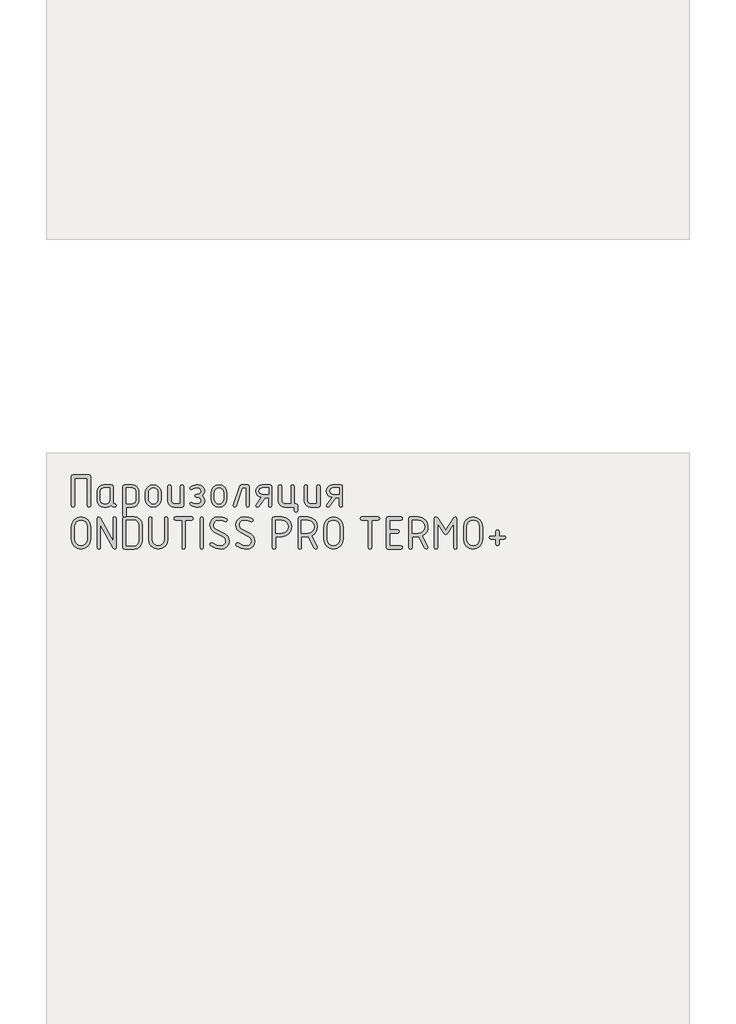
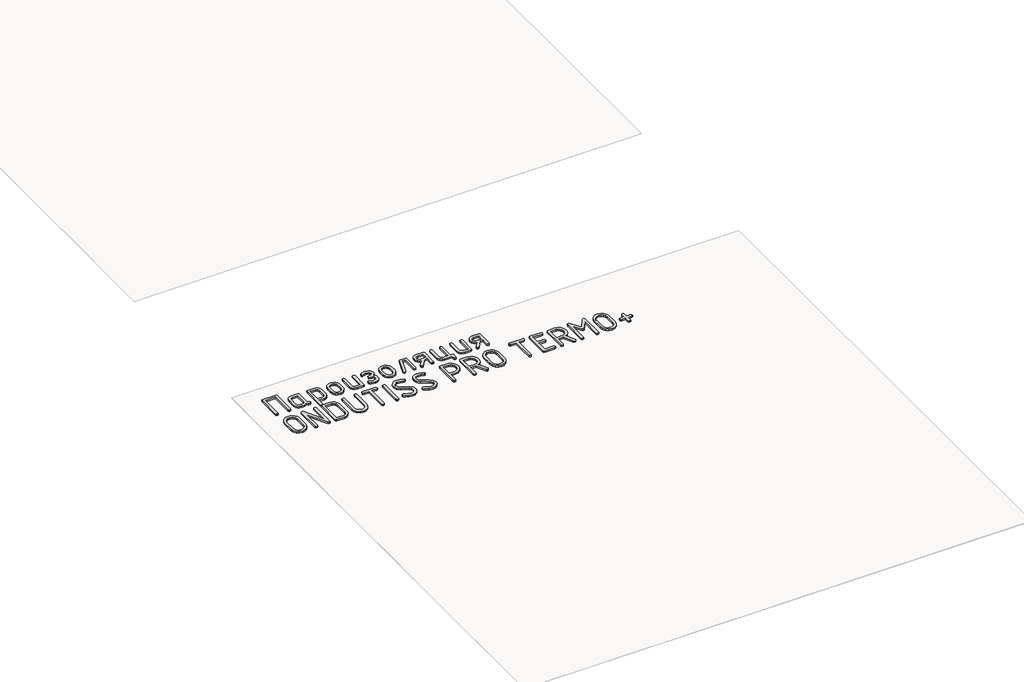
# One storey, part 15 of 42: 1 proxy.
"""IFC4 building model written with IfcOpenShell, lengths in millimetres."""

import ifcopenshell
import ifcopenshell.guid

model = None  # the IFC model being written
_history = None  # IfcOwnerHistory: only IFC2X3 demands one
_inside = {}  # id of a spatial element -> (the spatial element, [elements in it])
_under = {}  # id of a project, library or spatial element -> (it, [spatial elements below it])
_declared = {}  # id of a project -> (the project, [libraries it declares])
_typed = {}  # id of a type object -> (the type object, [elements of that type])
_made_of = {}  # id of a material, layer set ... -> (it, [elements and type objects made of it])


def new_model(schema):
    """Start an empty IFC model of exactly this schema.

    Asked for "IFC4X3", IfcOpenShell would pick the latest addendum, in which some entities
    have other attributes; the version numbers below select the first issue.
    IFC2X3 requires an IfcOwnerHistory on every rooted entity: one is made here for all.
    """
    global model, _history
    if schema == "IFC4X3":
        model = ifcopenshell.file(schema_version=(4, 3, 0, 0))
    else:
        model = ifcopenshell.file(schema=schema)
    _inside.clear()
    _under.clear()
    _declared.clear()
    _typed.clear()
    _made_of.clear()
    _history = None
    if model.schema == "IFC2X3":
        org = make("IfcOrganization", Name="unknown")
        user = make(
            "IfcPersonAndOrganization",
            ThePerson=make("IfcPerson", FamilyName="unknown"),
            TheOrganization=org,
        )
        app = make(
            "IfcApplication",
            ApplicationDeveloper=org,
            Version="unknown",
            ApplicationFullName="unknown",
            ApplicationIdentifier="unknown",
        )
        _history = make(
            "IfcOwnerHistory",
            OwningUser=user,
            OwningApplication=app,
            ChangeAction="ADDED",
            CreationDate=0,
        )
    return model


def make(cls, **values):
    """One entity of the class cls with the attributes given. An attribute that is None is left unset."""
    return model.create_entity(
        cls, **{name: value for name, value in values.items() if value is not None}
    )


def rooted(cls, **values):
    """An entity with a GlobalId (a new one), such as an element, a storey or a relation."""
    return make(cls, GlobalId=ifcopenshell.guid.new(), OwnerHistory=_history, **values)


def si_unit(unit_type, name, prefix=None):
    """IfcSIUnit, for example si_unit("LENGTHUNIT", "METRE", prefix="MILLI")."""
    return make("IfcSIUnit", UnitType=unit_type, Prefix=prefix, Name=name)


def assignment(units):
    """IfcUnitAssignment: the units of a project."""
    return None if units is None else make("IfcUnitAssignment", Units=units)


def point(xyz):
    """IfcCartesianPoint."""
    return None if xyz is None else make("IfcCartesianPoint", Coordinates=xyz)


def direction(xyz):
    """IfcDirection."""
    return None if xyz is None else make("IfcDirection", DirectionRatios=xyz)


def frame(location, z_axis=None, x_axis=None):
    """IfcAxis2Placement3D, a coordinate frame: its origin and axes. An axis left out is left unset."""
    return make(
        "IfcAxis2Placement3D",
        Location=point(location),
        Axis=direction(z_axis),
        RefDirection=direction(x_axis),
    )


def origin():
    """The frame at (0, 0, 0) with its axes left unset."""
    return frame((0.0, 0.0, 0.0))


def origin_with_axes():
    """The frame at (0, 0, 0) with the z axis (0, 0, 1) and the x axis (1, 0, 0) written out."""
    return frame((0.0, 0.0, 0.0), z_axis=(0.0, 0.0, 1.0), x_axis=(1.0, 0.0, 0.0))


def place(relative_to, where):
    """IfcLocalPlacement: puts the frame where relative to a parent placement (None: the world)."""
    return make(
        "IfcLocalPlacement", PlacementRelTo=relative_to, RelativePlacement=where
    )


def context(
    kind, dimensions, precision=None, world=None, true_north=None, identifier=None
):
    """IfcGeometricRepresentationContext, for example the 3D "Model" context."""
    return make(
        "IfcGeometricRepresentationContext",
        ContextIdentifier=identifier,
        ContextType=kind,
        CoordinateSpaceDimension=dimensions,
        Precision=precision,
        WorldCoordinateSystem=world,
        TrueNorth=true_north,
    )


def project(units=None, contexts=None):
    """IfcProject with its units and contexts."""
    return rooted(
        "IfcProject",
        Name="project",
        RepresentationContexts=contexts,
        UnitsInContext=assignment(units),
    )


def spatial(cls, under=None, at=None, **own):
    """A site, building, storey or space (cls), placed at a placement, below another one or the project."""
    s = rooted(cls, ObjectPlacement=at, **own)
    if under is not None:
        _under.setdefault(under.id(), (under, []))[1].append(s)
    return s


def polyline(points):
    """IfcPolyline through the points."""
    return make("IfcPolyline", Points=[point(p) for p in points])


def outline(outer, holes=None, kind="AREA"):
    """IfcArbitraryClosedProfileDef: a profile drawn as a closed curve; with holes, ...WithVoids."""
    if holes is None:
        return make("IfcArbitraryClosedProfileDef", ProfileType=kind, OuterCurve=outer)
    return make(
        "IfcArbitraryProfileDefWithVoids",
        ProfileType=kind,
        OuterCurve=outer,
        InnerCurves=holes,
    )


def extrude(swept, where, along, depth):
    """IfcExtrudedAreaSolid: the profile swept, set in the frame where, extruded along a direction by depth."""
    return make(
        "IfcExtrudedAreaSolid",
        SweptArea=swept,
        Position=where,
        ExtrudedDirection=direction(along),
        Depth=depth,
    )


def shape(context_of_items, identifier, shape_type, items):
    """IfcShapeRepresentation: the items that make up one representation, for example the "Body"."""
    return make(
        "IfcShapeRepresentation",
        ContextOfItems=context_of_items,
        RepresentationIdentifier=identifier,
        RepresentationType=shape_type,
        Items=items,
    )


def made_of(thing, what):
    """Note that an element or type object is made of a material, layer set ...; save() writes the relation."""
    if what is not None:
        _made_of.setdefault(what.id(), (what, []))[1].append(thing)
    return thing


def element(
    cls,
    number,
    at=None,
    inside=None,
    cuts=None,
    type_object=None,
    material=None,
    context=None,
    identifier="Body",
    shape_type=None,
    held_by="IfcProductDefinitionShape",
    body=None,
    shapes=None,
    **own,
):
    """One element of the class cls, such as IfcWall. Its Tag is "e" and its number.

    at: its placement. inside: the storey or other place that contains it. cuts: it is an
    opening in that element (IfcRelVoidsElement). A single representation is given by context,
    identifier, shape_type and body (its items); several are given by shapes. held_by: the class
    of the entity that holds the representations. save() writes the other relations.
    """
    e = rooted(cls, Tag="e%d" % number, ObjectPlacement=at, **own)
    if body is not None:
        shapes = [shape(context, identifier, shape_type, body)]
    if shapes is not None:
        e.Representation = make(held_by, Representations=shapes)
    if inside is not None:
        _inside.setdefault(inside.id(), (inside, []))[1].append(e)
    if cuts is not None:
        rooted(
            "IfcRelVoidsElement", RelatingBuildingElement=cuts, RelatedOpeningElement=e
        )
    if type_object is not None:
        _typed.setdefault(type_object.id(), (type_object, []))[1].append(e)
    return made_of(e, material)


def aggregate(whole, parts):
    """IfcRelAggregates: a whole, such as a stair, and the parts it consists of."""
    return rooted("IfcRelAggregates", RelatingObject=whole, RelatedObjects=parts)


def save(model, path):
    """Write the relations noted so far, then the file.

    IfcRelAggregates (storeys below a building ...), IfcRelContainedInSpatialStructure (elements
    in a storey), IfcRelDefinesByType, IfcRelAssociatesMaterial and IfcRelDeclares: one each for
    every whole, place, type object, material and project.
    """
    for whole, parts in _under.values():
        aggregate(whole, parts)
    for where, things in _inside.values():
        rooted(
            "IfcRelContainedInSpatialStructure",
            RelatedElements=things,
            RelatingStructure=where,
        )
    for kind, things in _typed.values():
        rooted("IfcRelDefinesByType", RelatedObjects=things, RelatingType=kind)
    for what, things in _made_of.values():
        rooted("IfcRelAssociatesMaterial", RelatedObjects=things, RelatingMaterial=what)
    for by, libraries in _declared.values():
        rooted("IfcRelDeclares", RelatingContext=by, RelatedDefinitions=libraries)
    model.write(path)


model = new_model("IFC4")

# Units and contexts
model_context = context("Model", 3, world=origin())
ifc_project = project(units=[si_unit("LENGTHUNIT", "METRE", prefix="MILLI")], contexts=[model_context])

# Site, building, storey
site = spatial("IfcSite", under=ifc_project)
building = spatial("IfcBuilding", under=site)
storey = spatial("IfcBuildingStorey", under=building, Name="Этаж 01", Elevation=0.0)

# Proxy
placement = place(None, origin())
element("IfcBuildingElementProxy", 1, Name="150 мм GOST Common", ObjectType="150 мм GOST Common", at=placement, inside=storey, context=model_context, shape_type="SweptSolid", body=[
    extrude(outline(polyline([(-10713.0545046, -34675.913887), (-10638.5048151, -34675.913887), (-10632.9016029, -34677.8016002), (-10631.0338655, -34683.4647398), (-10631.0338655, -34819.2202837), (-10632.9515424, -34824.8834233), (-10638.7045731, -34826.7711365), (-10644.4576038, -34824.8934112), (-10646.3752807, -34819.2602353), (-10646.3752807, -34691.2553022), (-10705.184039, -34691.2553022), (-10705.184039, -34819.2602353), (-10707.1017159, -34824.8934112), (-10712.8547466, -34826.7711365), (-10718.6077773, -34824.8834233), (-10720.5254542, -34819.2202837), (-10720.5254542, -34683.4647398), (-10718.6577168, -34677.8016002), (-10713.0545046, -34675.913887)])), origin_with_axes(), (0.0, 0.0, 1.0), 10.0),
    extrude(outline(polyline([(-10511.2190109, -34819.3001869), (-10513.0867483, -34824.9033991), (-10518.6899605, -34826.7711365), (-10528.1684781, -34824.7835443), (-10535.7492945, -34818.8207677), (-10544.8682477, -34824.7835443), (-10555.8449504, -34826.7711365), (-10570.7069464, -34826.7711365), (-10582.2030199, -34824.6037621), (-10591.7614407, -34818.1016388), (-10598.2036365, -34808.443339), (-10600.3510351, -34796.8074349), (-10600.3510351, -34751.9018342), (-10598.2036365, -34740.2659301), (-10591.7614407, -34730.6076303), (-10582.2030199, -34724.105507), (-10570.7069464, -34721.9381326), (-10533.6318596, -34721.9381326), (-10528.0586111, -34723.80587), (-10526.2008617, -34729.4090822), (-10526.2008617, -34804.3183361), (-10524.3281303, -34809.9215483), (-10518.7099363, -34811.7892857), (-10513.0917422, -34813.667011), (-10511.2190109, -34819.3001869)]), holes=[polyline([(-10541.5422768, -34737.2795478), (-10570.5071884, -34737.2795478), (-10580.7747501, -34741.6142966), (-10585.0096199, -34752.1015922), (-10585.0096199, -34796.6076769), (-10580.7347985, -34807.0550209), (-10570.5071884, -34811.4297213), (-10556.0447084, -34811.4297213), (-10545.7771467, -34807.0949725), (-10541.5422768, -34796.6076769), (-10541.5422768, -34737.2795478)])]), origin_with_axes(), (0.0, 0.0, 1.0), 10.0),
    extrude(outline(polyline([(-10480.1766161, -34729.4889854), (-10478.3188666, -34723.8258458), (-10472.7456181, -34721.9381326), (-10435.6705313, -34721.9381326), (-10424.1744578, -34724.105507), (-10414.6160371, -34730.6076303), (-10408.1738412, -34740.2659301), (-10406.0264426, -34751.9018342), (-10406.0264426, -34796.8074349), (-10408.1588594, -34808.3684298), (-10414.5561096, -34818.0417114), (-10424.0396212, -34824.5887802), (-10435.4308217, -34826.7711365), (-10464.8352009, -34826.7711365), (-10464.8352009, -34865.1246745), (-10466.7528778, -34870.8777052), (-10472.5059085, -34872.7953821), (-10478.2589392, -34870.9076689), (-10480.1766161, -34865.2445293), (-10480.1766161, -34729.4889854)]), holes=[polyline([(-10464.8352009, -34737.2795478), (-10464.8352009, -34811.4297213), (-10435.8702894, -34811.4297213), (-10425.6027276, -34807.0949725), (-10421.3678578, -34796.6076769), (-10421.3678578, -34752.1015922), (-10425.5428002, -34741.5543692), (-10435.8702894, -34737.2795478), (-10464.8352009, -34737.2795478)])]), origin_with_axes(), (0.0, 0.0, 1.0), 10.0),
    extrude(outline(polyline([(-10375.3436122, -34789.3364853), (-10375.3436122, -34759.3727838), (-10372.6318972, -34744.9802191), (-10364.4967522, -34732.8848716), (-10352.5162656, -34724.6748174), (-10338.2685255, -34721.9381326), (-10323.8709669, -34724.6448537), (-10311.9204439, -34732.7650168), (-10303.87519, -34744.8304006), (-10301.1934388, -34759.3727838), (-10301.1934388, -34789.3364853), (-10303.9051537, -34803.72905), (-10312.0402987, -34815.8243975), (-10324.0207854, -34824.0344517), (-10338.2685255, -34826.7711365), (-10352.5162656, -34824.0344517), (-10364.4967522, -34815.8243975), (-10372.6318972, -34803.72905), (-10375.3436122, -34789.3364853)]), holes=[polyline([(-10316.534854, -34788.8970177), (-10316.534854, -34758.8933645), (-10318.1279241, -34750.2638185), (-10322.9071345, -34742.9926269), (-10329.9336225, -34738.0486162), (-10338.2685255, -34736.4006126), (-10346.6034285, -34738.0486162), (-10353.6299165, -34742.9926269), (-10358.4091269, -34750.2638185), (-10360.002197, -34758.8933645), (-10360.002197, -34788.8970177), (-10358.4241087, -34797.606467), (-10353.6898439, -34804.8776585), (-10346.6783377, -34809.7917056), (-10338.2685255, -34811.4297213), (-10329.9336225, -34809.7817177), (-10322.9071345, -34804.8377069), (-10318.1279241, -34797.5565275), (-10316.534854, -34788.8970177)])]), origin_with_axes(), (0.0, 0.0, 1.0), 10.0),
    extrude(outline(polyline([(-10196.3604349, -34729.4090822), (-10196.3604349, -34819.3001869), (-10198.2181844, -34824.9033991), (-10203.7914329, -34826.7711365), (-10240.8665196, -34826.7711365), (-10252.3625931, -34824.6037621), (-10261.9210139, -34818.1016388), (-10268.3632097, -34808.443339), (-10270.5106084, -34796.8074349), (-10270.5106084, -34729.4090822), (-10268.5929315, -34723.80587), (-10262.8399008, -34721.9381326), (-10257.0868701, -34723.80587), (-10255.1691932, -34729.4090822), (-10255.1691932, -34796.5277737), (-10250.8943717, -34807.0150692), (-10240.6667616, -34811.4297213), (-10211.7018501, -34811.4297213), (-10211.7018501, -34729.4090822), (-10209.7841732, -34723.80587), (-10204.0311425, -34721.9381326), (-10198.2781118, -34723.80587), (-10196.3604349, -34729.4090822)])), origin_with_axes(), (0.0, 0.0, 1.0), 10.0),
    extrude(outline(polyline([(-10114.5395539, -34796.0483545), (-10118.5347141, -34784.7020995), (-10127.4039697, -34780.7468909), (-10137.0722574, -34780.7468909), (-10142.3858205, -34778.5495528), (-10144.543207, -34773.1161349), (-10142.3258931, -34767.6627412), (-10134.9148709, -34765.4054757), (-10132.6376296, -34765.4054757), (-10130.2405335, -34765.4054757), (-10118.5746657, -34761.3503881), (-10114.5395539, -34751.3425118), (-10118.8743027, -34741.3346354), (-10129.5613562, -34737.2795478), (-10137.0722574, -34737.2795478), (-10152.4536242, -34741.0949258), (-10161.3628315, -34744.9103038), (-10165.3579917, -34742.1736191), (-10167.0759106, -34736.9199834), (-10163.9996372, -34731.1769406), (-10154.7708171, -34726.013196), (-10137.0722574, -34721.9381326), (-10129.5613562, -34721.9381326), (-10117.8755126, -34724.0555675), (-10108.0673943, -34730.4078723), (-10101.4154526, -34739.8264625), (-10099.1981387, -34751.1427537), (-10101.8449323, -34764.4366493), (-10109.7853132, -34773.0761833), (-10101.8449323, -34782.2650518), (-10099.1981387, -34796.0883061), (-10101.4154526, -34807.9888895), (-10108.0673943, -34817.881905), (-10117.8755126, -34824.5488286), (-10129.5613562, -34826.7711365), (-10137.0722574, -34826.7711365), (-10154.8906719, -34822.8159279), (-10164.0296009, -34817.7420744), (-10167.0759106, -34811.7892857), (-10165.3579917, -34806.5156742), (-10161.2429767, -34803.7989653), (-10152.1140356, -34807.6143433), (-10137.0722574, -34811.4297213), (-10129.5613562, -34811.4297213), (-10118.9142543, -34806.935166), (-10114.5395539, -34796.0483545)])), origin_with_axes(), (0.0, 0.0, 1.0), 10.0),
    extrude(outline(polyline([(-10068.5153083, -34789.3364853), (-10068.5153083, -34759.3727838), (-10065.8035933, -34744.9802191), (-10057.6684483, -34732.8848716), (-10045.6879616, -34724.6748174), (-10031.4402215, -34721.9381326), (-10017.0426629, -34724.6448537), (-10005.09214, -34732.7650168), (-9997.0468861, -34744.8304006), (-9994.3651348, -34759.3727838), (-9994.3651348, -34789.3364853), (-9997.0768498, -34803.72905), (-10005.2119948, -34815.8243975), (-10017.1924814, -34824.0344517), (-10031.4402215, -34826.7711365), (-10045.6879616, -34824.0344517), (-10057.6684483, -34815.8243975), (-10065.8035933, -34803.72905), (-10068.5153083, -34789.3364853)]), holes=[polyline([(-10009.70655, -34788.8970177), (-10009.70655, -34758.8933645), (-10011.2996201, -34750.2638185), (-10016.0788305, -34742.9926269), (-10023.1053185, -34738.0486162), (-10031.4402215, -34736.4006126), (-10039.7751245, -34738.0486162), (-10046.8016125, -34742.9926269), (-10051.5808229, -34750.2638185), (-10053.1738931, -34758.8933645), (-10053.1738931, -34788.8970177), (-10051.5958048, -34797.606467), (-10046.8615399, -34804.8776585), (-10039.8500338, -34809.7917056), (-10031.4402215, -34811.4297213), (-10023.1053185, -34809.7817177), (-10016.0788305, -34804.8377069), (-10011.2996201, -34797.5565275), (-10009.70655, -34788.8970177)])]), origin_with_axes(), (0.0, 0.0, 1.0), 10.0),
    extrude(outline(polyline([(-9927.3662981, -34721.9381326), (-9897.2028386, -34721.9381326), (-9891.4498079, -34723.80587), (-9889.532131, -34729.4090822), (-9889.532131, -34819.3001869), (-9891.4498079, -34824.9033991), (-9897.2028386, -34826.7711365), (-9902.9558693, -34824.9033991), (-9904.8735462, -34819.3001869), (-9904.8735462, -34737.2795478), (-9922.0127834, -34737.2795478), (-9950.2985177, -34821.697283), (-9957.3699513, -34826.7711365), (-9963.0031272, -34824.8734354), (-9964.8808525, -34819.1803321), (-9964.5212881, -34816.9030908), (-9934.8771993, -34728.0507277), (-9931.9607324, -34723.4662814), (-9927.3662981, -34721.9381326)])), origin_with_axes(), (0.0, 0.0, 1.0), 10.0),
    extrude(outline(polyline([(-9833.3202268, -34781.6258261), (-9843.9024074, -34778.5046072), (-9852.47702, -34771.8576594), (-9858.1551415, -34762.663797), (-9860.0478486, -34751.9018342), (-9857.8704863, -34740.2659301), (-9851.3383994, -34730.6076303), (-9841.6601238, -34724.105507), (-9830.0441955, -34721.9381326), (-9792.3698347, -34721.9381326), (-9786.616804, -34723.80587), (-9784.6991271, -34729.4090822), (-9784.6991271, -34819.3001869), (-9786.616804, -34824.9033991), (-9792.3698347, -34826.7711365), (-9798.1228654, -34824.8934112), (-9800.0405423, -34819.2602353), (-9800.0405423, -34781.7856325), (-9815.2621027, -34781.7856325), (-9846.5042555, -34823.6948631), (-9852.5369474, -34826.7711365), (-9858.1701233, -34824.9033991), (-9860.0478486, -34819.3001869), (-9858.5696393, -34814.7457043), (-9833.3202268, -34781.6258261)]), holes=[polyline([(-9845.0260462, -34752.3013502), (-9840.5914184, -34762.8485732), (-9830.0441955, -34767.283201), (-9800.0405423, -34767.283201), (-9800.0405423, -34737.2795478), (-9830.0441955, -34737.2795478), (-9840.6513458, -34741.6542483), (-9845.0260462, -34752.3013502)])]), origin_with_axes(), (0.0, 0.0, 1.0), 10.0),
    extrude(outline(polyline([(-9672.1954157, -34811.4297213), (-9666.442385, -34813.3473982), (-9664.5247081, -34819.1004289), (-9664.5247081, -34842.1125517), (-9666.442385, -34847.8655824), (-9672.1954157, -34849.7832593), (-9677.9484464, -34847.8655824), (-9679.8661233, -34842.1125517), (-9679.8661233, -34826.7711365), (-9724.372208, -34826.7711365), (-9735.8682815, -34824.5887802), (-9745.4267023, -34818.0417114), (-9751.8688981, -34808.3684298), (-9754.0162967, -34796.8074349), (-9754.0162967, -34729.4090822), (-9752.0986198, -34723.80587), (-9746.3455891, -34721.9381326), (-9740.5925584, -34723.80587), (-9738.6748815, -34729.4090822), (-9738.6748815, -34796.5277737), (-9734.4000601, -34807.0150692), (-9724.17245, -34811.4297213), (-9695.2075385, -34811.4297213), (-9695.2075385, -34729.4090822), (-9693.2898616, -34723.80587), (-9687.5368309, -34721.9381326), (-9681.7838002, -34723.80587), (-9679.8661233, -34729.4090822), (-9679.8661233, -34811.4297213), (-9672.1954157, -34811.4297213)])), origin_with_axes(), (0.0, 0.0, 1.0), 10.0),
    extrude(outline(polyline([(-9559.6917042, -34729.4090822), (-9559.6917042, -34819.3001869), (-9561.5494537, -34824.9033991), (-9567.1227022, -34826.7711365), (-9604.1977889, -34826.7711365), (-9615.6938624, -34824.6037621), (-9625.2522832, -34818.1016388), (-9631.6944791, -34808.443339), (-9633.8418777, -34796.8074349), (-9633.8418777, -34729.4090822), (-9631.9242008, -34723.80587), (-9626.1711701, -34721.9381326), (-9620.4181394, -34723.80587), (-9618.5004625, -34729.4090822), (-9618.5004625, -34796.5277737), (-9614.225641, -34807.0150692), (-9603.9980309, -34811.4297213), (-9575.0331194, -34811.4297213), (-9575.0331194, -34729.4090822), (-9573.1154425, -34723.80587), (-9567.3624118, -34721.9381326), (-9561.6093811, -34723.80587), (-9559.6917042, -34729.4090822)])), origin_with_axes(), (0.0, 0.0, 1.0), 10.0),
    extrude(outline(polyline([(-9503.4798001, -34781.6258261), (-9514.0619807, -34778.5046072), (-9522.6365933, -34771.8576594), (-9528.3147147, -34762.663797), (-9530.2074219, -34751.9018342), (-9528.0300596, -34740.2659301), (-9521.4979726, -34730.6076303), (-9511.819697, -34724.105507), (-9500.2037687, -34721.9381326), (-9462.529408, -34721.9381326), (-9456.7763773, -34723.80587), (-9454.8587004, -34729.4090822), (-9454.8587004, -34819.3001869), (-9456.7763773, -34824.9033991), (-9462.529408, -34826.7711365), (-9468.2824387, -34824.8934112), (-9470.2001156, -34819.2602353), (-9470.2001156, -34781.7856325), (-9485.4216759, -34781.7856325), (-9516.6638288, -34823.6948631), (-9522.6965207, -34826.7711365), (-9528.3296966, -34824.9033991), (-9530.2074219, -34819.3001869), (-9528.7292126, -34814.7457043), (-9503.4798001, -34781.6258261)]), holes=[polyline([(-9515.1856195, -34752.3013502), (-9510.7509917, -34762.8485732), (-9500.2037687, -34767.283201), (-9470.2001156, -34767.283201), (-9470.2001156, -34737.2795478), (-9500.2037687, -34737.2795478), (-9510.8109191, -34741.6542483), (-9515.1856195, -34752.3013502)])]), origin_with_axes(), (0.0, 0.0, 1.0), 10.0),
    extrude(outline(polyline([(-10631.0338655, -34977.5302169), (-10634.3098969, -34994.8991759), (-10644.137991, -35009.5314502), (-10658.6004709, -35019.4793991), (-10675.7796598, -35022.7953821), (-10692.9588487, -35019.4793991), (-10707.4213287, -35009.5314502), (-10717.2494228, -34994.8991759), (-10720.5254542, -34977.5302169), (-10720.5254542, -34917.2032978), (-10717.2494228, -34899.8343388), (-10707.4213287, -34885.2020645), (-10692.9588487, -34875.2541156), (-10675.7796598, -34871.9381326), (-10658.5255617, -34875.2391337), (-10644.0780636, -34885.1421371), (-10634.294915, -34899.7594295), (-10631.0338655, -34917.2032978), (-10631.0338655, -34977.5302169)]), holes=[polyline([(-10646.3752807, -34977.4103621), (-10646.3752807, -34917.3231526), (-10648.5076975, -34905.6772606), (-10654.9049477, -34895.9889971), (-10664.3884593, -34889.4569101), (-10675.7796598, -34887.2795478), (-10687.1708604, -34889.4569101), (-10696.6543719, -34895.9889971), (-10703.0516222, -34905.6772606), (-10705.184039, -34917.3231526), (-10705.184039, -34977.4103621), (-10703.0516222, -34989.0562541), (-10696.6543719, -34998.7445176), (-10687.1708604, -35005.2766046), (-10675.7796598, -35007.4539669), (-10664.3884593, -35005.2766046), (-10654.9049477, -34998.7445176), (-10648.5076975, -34989.0562541), (-10646.3752807, -34977.4103621)])]), origin_with_axes(), (0.0, 0.0, 1.0), 10.0),
    extrude(outline(polyline([(-10526.2008617, -34986.1198114), (-10526.2008617, -34879.4889854), (-10524.2831848, -34873.8258458), (-10518.5301541, -34871.9381326), (-10512.7771234, -34873.8258458), (-10510.8594465, -34879.4889854), (-10510.8594465, -35015.2445293), (-10512.8969782, -35020.9076689), (-10519.0095733, -35022.7953821), (-10526.2008617, -35019.0399315), (-10585.0096199, -34908.4938485), (-10585.0096199, -35015.2445293), (-10586.9272968, -35020.9076689), (-10592.6803275, -35022.7953821), (-10598.4333582, -35020.9076689), (-10600.3510351, -35015.2445293), (-10600.3510351, -34879.4889854), (-10598.353455, -34873.8258458), (-10592.3607147, -34871.9381326), (-10585.0096199, -34876.4127121), (-10526.2008617, -34986.1198114)])), origin_with_axes(), (0.0, 0.0, 1.0), 10.0),
    extrude(outline(polyline([(-10480.1766161, -34879.4889854), (-10478.3088787, -34873.8258458), (-10472.7056665, -34871.9381326), (-10427.9598721, -34871.9381326), (-10413.4874043, -34874.6648295), (-10401.47196, -34882.84492), (-10393.3817605, -34895.0001949), (-10390.6850274, -34909.652445), (-10390.6850274, -34985.0810697), (-10393.4117242, -34999.5835013), (-10401.5918148, -35011.7687399), (-10413.6372228, -35020.0387215), (-10427.9598721, -35022.7953821), (-10472.7056665, -35022.7953821), (-10478.3088787, -35020.9076689), (-10480.1766161, -35015.2445293), (-10480.1766161, -34879.4889854)]), holes=[polyline([(-10464.8352009, -34887.2795478), (-10464.8352009, -35007.4539669), (-10428.079727, -35007.4539669), (-10419.6049934, -35005.8059633), (-10412.4786263, -35000.8619525), (-10407.6394885, -34993.580773), (-10406.0264426, -34984.9212633), (-10406.0264426, -34909.8122514), (-10407.6394885, -34901.1527416), (-10412.4786263, -34893.8715622), (-10419.6049934, -34888.9275514), (-10428.079727, -34887.2795478), (-10464.8352009, -34887.2795478)])]), origin_with_axes(), (0.0, 0.0, 1.0), 10.0),
    extrude(outline(polyline([(-10270.5106084, -34879.4889854), (-10270.5106084, -34977.5302169), (-10273.7866397, -34994.8991759), (-10283.6147338, -35009.5314502), (-10298.0772138, -35019.4793991), (-10315.2564027, -35022.7953821), (-10332.4355916, -35019.4793991), (-10346.8980715, -35009.5314502), (-10356.7261656, -34994.8991759), (-10360.002197, -34977.5302169), (-10360.002197, -34879.4889854), (-10358.0845201, -34873.8258458), (-10352.3314894, -34871.9381326), (-10346.5784587, -34873.8158579), (-10344.6607818, -34879.4490338), (-10344.6607818, -34977.3304589), (-10342.5283651, -34989.0113086), (-10336.1311148, -34998.7245418), (-10326.6476032, -35005.2716106), (-10315.2564027, -35007.4539669), (-10303.8652021, -35005.2716106), (-10294.3816906, -34998.7245418), (-10287.9844403, -34989.0113086), (-10285.8520236, -34977.3304589), (-10285.8520236, -34879.4490338), (-10283.9343467, -34873.8158579), (-10278.181316, -34871.9381326), (-10272.4282853, -34873.8258458), (-10270.5106084, -34879.4889854)])), origin_with_axes(), (0.0, 0.0, 1.0), 10.0),
    extrude(outline(polyline([(-10241.5456969, -34879.6088402), (-10239.6679716, -34873.8558095), (-10234.0347957, -34871.9381326), (-10158.6860741, -34871.9381326), (-10153.082862, -34873.8558095), (-10151.2151246, -34879.6088402), (-10153.082862, -34885.3618709), (-10158.6860741, -34887.2795478), (-10188.6897273, -34887.2795478), (-10188.6897273, -35015.2844809), (-10190.6074042, -35020.9176568), (-10196.3604349, -35022.7953821), (-10202.1134656, -35020.9176568), (-10204.0311425, -35015.2844809), (-10204.0311425, -34887.2795478), (-10234.0347957, -34887.2795478), (-10239.6679716, -34885.3618709), (-10241.5456969, -34879.6088402)])), origin_with_axes(), (0.0, 0.0, 1.0), 10.0),
    extrude(outline(polyline([(-10111.9826513, -35022.7953821), (-10117.735682, -35020.9076689), (-10119.6533589, -35015.2445293), (-10119.6533589, -34879.4889854), (-10117.735682, -34873.8258458), (-10111.9826513, -34871.9381326), (-10106.2296206, -34873.8258458), (-10104.3119437, -34879.4889854), (-10104.3119437, -35015.2445293), (-10106.2296206, -35020.9076689), (-10111.9826513, -35022.7953821)])), origin_with_axes(), (0.0, 0.0, 1.0), 10.0),
    extrude(outline(polyline([(-9984.1375247, -34985.1609729), (-9986.8792034, -34999.5535376), (-9995.1042394, -35011.7287883), (-10007.1646293, -35020.0287336), (-10021.4123694, -35022.7953821), (-10047.4308503, -35018.6104518), (-10070.353082, -35006.0556608), (-10073.6291133, -34999.9430657), (-10071.4317752, -34994.6494784), (-10066.1981153, -34992.4321645), (-10061.9632455, -34993.790519), (-10041.5080253, -35004.2578387), (-10021.7319822, -35007.4539669), (-10013.1823394, -35005.8009693), (-10005.991051, -35000.8419767), (-10001.1069677, -34993.5458154), (-9999.4789399, -34984.8813117), (-10002.5652011, -34972.9158069), (-10011.8239849, -34964.665801), (-10053.5334575, -34943.0120327), (-10068.6051994, -34929.3985243), (-10073.6291133, -34909.5725418), (-10070.9024165, -34895.1799771), (-10062.722326, -34883.0047264), (-10050.7268574, -34874.7047811), (-10036.5540266, -34871.9381326), (-10013.3721095, -34874.0256038), (-9996.4026665, -34880.2880175), (-9991.9680387, -34887.2795478), (-9994.1853526, -34892.5731351), (-9999.4789399, -34894.790449), (-10002.5951648, -34893.991417), (-10019.4747167, -34888.9575151), (-10036.2344138, -34887.2795478), (-10044.7091474, -34888.9325454), (-10051.8355144, -34893.891538), (-10056.6746522, -34901.1876993), (-10058.2876981, -34909.852203), (-10055.2513764, -34921.7877441), (-10046.1424111, -34929.9478588), (-10004.4728901, -34951.6016272), (-9989.221366, -34965.3050267), (-9984.1375247, -34985.1609729)])), origin_with_axes(), (0.0, 0.0, 1.0), 10.0),
    extrude(outline(polyline([(-9863.9631056, -34985.1609729), (-9866.7047843, -34999.5535376), (-9874.9298204, -35011.7287883), (-9886.9902103, -35020.0287336), (-9901.2379504, -35022.7953821), (-9927.2564312, -35018.6104518), (-9950.1786629, -35006.0556608), (-9953.4546943, -34999.9430657), (-9951.2573562, -34994.6494784), (-9946.0236963, -34992.4321645), (-9941.7888265, -34993.790519), (-9921.3336062, -35004.2578387), (-9901.5575632, -35007.4539669), (-9893.0079203, -35005.8009693), (-9885.816632, -35000.8419767), (-9880.9325486, -34993.5458154), (-9879.3045208, -34984.8813117), (-9882.3907821, -34972.9158069), (-9891.6495659, -34964.665801), (-9933.3590384, -34943.0120327), (-9948.4307803, -34929.3985243), (-9953.4546943, -34909.5725418), (-9950.7279974, -34895.1799771), (-9942.5479069, -34883.0047264), (-9930.5524384, -34874.7047811), (-9916.3796075, -34871.9381326), (-9893.1976904, -34874.0256038), (-9876.2282475, -34880.2880175), (-9871.7936196, -34887.2795478), (-9874.0109335, -34892.5731351), (-9879.3045208, -34894.790449), (-9882.4207458, -34893.991417), (-9899.3002977, -34888.9575151), (-9916.0599947, -34887.2795478), (-9924.5347283, -34888.9325454), (-9931.6610953, -34893.891538), (-9936.5002331, -34901.1876993), (-9938.1132791, -34909.852203), (-9935.0769573, -34921.7877441), (-9925.967992, -34929.9478588), (-9884.2984711, -34951.6016272), (-9869.046947, -34965.3050267), (-9863.9631056, -34985.1609729)])), origin_with_axes(), (0.0, 0.0, 1.0), 10.0),
    extrude(outline(polyline([(-9774.671275, -34871.9381326), (-9737.3964302, -34871.9381326), (-9720.1423321, -34875.2940672), (-9705.694834, -34885.3618709), (-9695.9116854, -34900.2238669), (-9692.6506359, -34917.9623782), (-9695.7418911, -34936.4999216), (-9705.0156568, -34951.2021111), (-9719.2334332, -34960.7904956), (-9737.1567206, -34963.9866238), (-9766.8008094, -34963.9866238), (-9766.8008094, -35015.4442873), (-9768.7184863, -35020.9576084), (-9774.471517, -35022.7953821), (-9780.2245477, -35020.9076689), (-9782.1422246, -35015.2445293), (-9782.1422246, -34879.4889854), (-9780.2744872, -34873.8258458), (-9774.671275, -34871.9381326)]), holes=[polyline([(-9766.8008094, -34887.2795478), (-9766.8008094, -34948.6452086), (-9737.3964302, -34948.6452086), (-9726.0052297, -34946.4229007), (-9716.5217182, -34939.7559772), (-9710.1244679, -34929.8629617), (-9707.9920511, -34917.9623782), (-9710.1244679, -34906.0617947), (-9716.5217182, -34896.1687793), (-9726.0052297, -34889.5018557), (-9737.3964302, -34887.2795478), (-9766.8008094, -34887.2795478)])]), origin_with_axes(), (0.0, 0.0, 1.0), 10.0),
    extrude(outline(polyline([(-9598.6445162, -34959.2723348), (-9572.4762169, -35011.8086915), (-9572.4762169, -35015.2445293), (-9574.9132646, -35020.5181407), (-9580.5064889, -35022.7953821), (-9587.8176321, -35018.6803671), (-9614.9048183, -34963.866769), (-9617.541624, -34963.9866238), (-9646.6263903, -34963.9866238), (-9646.6263903, -35015.4442873), (-9648.5440672, -35020.9576084), (-9654.2970979, -35022.7953821), (-9660.0501286, -35020.9076689), (-9661.9678055, -35015.2445293), (-9661.9678055, -34879.4889854), (-9660.1000681, -34873.8258458), (-9654.4968559, -34871.9381326), (-9617.2220112, -34871.9381326), (-9599.9679131, -34875.2391337), (-9585.520415, -34885.1421371), (-9575.7372664, -34899.7594295), (-9572.4762169, -34917.2032978), (-9574.1117356, -34931.533438), (-9579.0182917, -34943.3216576), (-9587.1958853, -34952.5679565), (-9598.6445162, -34959.2723348)]), holes=[polyline([(-9646.6263903, -34887.2795478), (-9646.6263903, -34948.6452086), (-9617.2220112, -34948.6452086), (-9605.8308107, -34946.4229007), (-9596.3472991, -34939.7559772), (-9589.9500488, -34929.8629617), (-9587.8176321, -34917.9623782), (-9589.9500488, -34906.0617947), (-9596.3472991, -34896.1687793), (-9605.8308107, -34889.5018557), (-9617.2220112, -34887.2795478), (-9646.6263903, -34887.2795478)])]), origin_with_axes(), (0.0, 0.0, 1.0), 10.0),
    extrude(outline(polyline([(-9452.3017978, -34977.5302169), (-9455.5778292, -34994.8991759), (-9465.4059233, -35009.5314502), (-9479.8684033, -35019.4793991), (-9497.0475922, -35022.7953821), (-9514.226781, -35019.4793991), (-9528.689261, -35009.5314502), (-9538.5173551, -34994.8991759), (-9541.7933865, -34977.5302169), (-9541.7933865, -34917.2032978), (-9538.5173551, -34899.8343388), (-9528.689261, -34885.2020645), (-9514.226781, -34875.2541156), (-9497.0475922, -34871.9381326), (-9479.793494, -34875.2391337), (-9465.3459959, -34885.1421371), (-9455.5628473, -34899.7594295), (-9452.3017978, -34917.2032978), (-9452.3017978, -34977.5302169)]), holes=[polyline([(-9467.643213, -34977.4103621), (-9467.643213, -34917.3231526), (-9469.7756298, -34905.6772606), (-9476.1728801, -34895.9889971), (-9485.6563916, -34889.4569101), (-9497.0475922, -34887.2795478), (-9508.4387927, -34889.4569101), (-9517.9223042, -34895.9889971), (-9524.3195545, -34905.6772606), (-9526.4519713, -34917.3231526), (-9526.4519713, -34977.4103621), (-9524.3195545, -34989.0562541), (-9517.9223042, -34998.7445176), (-9508.4387927, -35005.2766046), (-9497.0475922, -35007.4539669), (-9485.6563916, -35005.2766046), (-9476.1728801, -34998.7445176), (-9469.7756298, -34989.0562541), (-9467.643213, -34977.4103621)])]), origin_with_axes(), (0.0, 0.0, 1.0), 10.0),
    extrude(outline(polyline([(-9372.1988357, -34879.6088402), (-9370.3211104, -34873.8558095), (-9364.6879345, -34871.9381326), (-9289.339213, -34871.9381326), (-9283.7360008, -34873.8558095), (-9281.8682634, -34879.6088402), (-9283.7360008, -34885.3618709), (-9289.339213, -34887.2795478), (-9319.3428661, -34887.2795478), (-9319.3428661, -35015.2844809), (-9321.260543, -35020.9176568), (-9327.0135737, -35022.7953821), (-9332.7666044, -35020.9176568), (-9334.6842813, -35015.2844809), (-9334.6842813, -34887.2795478), (-9364.6879345, -34887.2795478), (-9370.3211104, -34885.3618709), (-9372.1988357, -34879.6088402)])), origin_with_axes(), (0.0, 0.0, 1.0), 10.0),
    extrude(outline(polyline([(-9250.3064977, -35015.2445293), (-9250.3064977, -34879.4889854), (-9248.3888208, -34873.8258458), (-9242.6357901, -34871.9381326), (-9182.4686774, -34871.9381326), (-9176.8355015, -34873.8558095), (-9174.9577762, -34879.6088402), (-9176.8355015, -34885.3618709), (-9182.4686774, -34887.2795478), (-9234.9650825, -34887.2795478), (-9234.9650825, -34933.3037934), (-9197.4505282, -34933.3037934), (-9191.847316, -34935.2214703), (-9189.9795786, -34940.974501), (-9191.847316, -34946.7275317), (-9197.4505282, -34948.6452086), (-9234.9650825, -34948.6452086), (-9234.9650825, -35007.4539669), (-9182.4686774, -35007.4539669), (-9176.8355015, -35009.3716438), (-9174.9577762, -35015.1246745), (-9176.8355015, -35020.8777052), (-9182.4686774, -35022.7953821), (-9242.6357901, -35022.7953821), (-9248.3888208, -35020.9076689), (-9250.3064977, -35015.2445293)])), origin_with_axes(), (0.0, 0.0, 1.0), 10.0),
    extrude(outline(polyline([(-9082.1502046, -34959.2723348), (-9055.9819052, -35011.8086915), (-9055.9819052, -35015.2445293), (-9058.4189529, -35020.5181407), (-9064.0121772, -35022.7953821), (-9071.3233204, -35018.6803671), (-9098.4105066, -34963.866769), (-9101.0473124, -34963.9866238), (-9130.1320787, -34963.9866238), (-9130.1320787, -35015.4442873), (-9132.0497556, -35020.9576084), (-9137.8027863, -35022.7953821), (-9143.555817, -35020.9076689), (-9145.4734939, -35015.2445293), (-9145.4734939, -34879.4889854), (-9143.6057565, -34873.8258458), (-9138.0025443, -34871.9381326), (-9100.7276995, -34871.9381326), (-9083.4736014, -34875.2391337), (-9069.0261033, -34885.1421371), (-9059.2429547, -34899.7594295), (-9055.9819052, -34917.2032978), (-9057.6174239, -34931.533438), (-9062.5239801, -34943.3216576), (-9070.7015736, -34952.5679565), (-9082.1502046, -34959.2723348)]), holes=[polyline([(-9130.1320787, -34887.2795478), (-9130.1320787, -34948.6452086), (-9100.7276995, -34948.6452086), (-9089.336499, -34946.4229007), (-9079.8529875, -34939.7559772), (-9073.4557372, -34929.8629617), (-9071.3233204, -34917.9623782), (-9073.4557372, -34906.0617947), (-9079.8529875, -34896.1687793), (-9089.336499, -34889.5018557), (-9100.7276995, -34887.2795478), (-9130.1320787, -34887.2795478)])]), origin_with_axes(), (0.0, 0.0, 1.0), 10.0),
    extrude(outline(polyline([(-8928.7760042, -34871.9381326), (-8922.5435543, -34873.8258458), (-8920.466071, -34879.4889854), (-8920.466071, -35015.2445293), (-8922.3837479, -35020.9076689), (-8928.1367786, -35022.7953821), (-8933.8898093, -35020.9076689), (-8935.8074862, -35015.2445293), (-8935.8074862, -34904.2989303), (-8966.0108973, -34950.1234179), (-8972.8825729, -34954.6379489), (-8979.8341517, -34950.1234179), (-9009.9576596, -34904.2989303), (-9009.9576596, -35015.2445293), (-9011.8753365, -35020.9076689), (-9017.6283672, -35022.7953821), (-9023.3813979, -35020.9076689), (-9025.2990748, -35015.2445293), (-9025.2990748, -34879.4889854), (-9023.2615431, -34873.8258458), (-9017.148948, -34871.9381326), (-9009.9576596, -34875.6935832), (-8973.0024277, -34933.6633578), (-8935.8074862, -34875.2541156), (-8928.7760042, -34871.9381326)])), origin_with_axes(), (0.0, 0.0, 1.0), 10.0),
    extrude(outline(polyline([(-8800.2916519, -34977.5302169), (-8803.5676833, -34994.8991759), (-8813.3957774, -35009.5314502), (-8827.8582574, -35019.4793991), (-8845.0374463, -35022.7953821), (-8862.2166351, -35019.4793991), (-8876.6791151, -35009.5314502), (-8886.5072092, -34994.8991759), (-8889.7832406, -34977.5302169), (-8889.7832406, -34917.2032978), (-8886.5072092, -34899.8343388), (-8876.6791151, -34885.2020645), (-8862.2166351, -34875.2541156), (-8845.0374463, -34871.9381326), (-8827.7833481, -34875.2391337), (-8813.33585, -34885.1421371), (-8803.5527014, -34899.7594295), (-8800.2916519, -34917.2032978), (-8800.2916519, -34977.5302169)]), holes=[polyline([(-8815.6330671, -34977.4103621), (-8815.6330671, -34917.3231526), (-8817.7654839, -34905.6772606), (-8824.1627342, -34895.9889971), (-8833.6462457, -34889.4569101), (-8845.0374463, -34887.2795478), (-8856.4286468, -34889.4569101), (-8865.9121583, -34895.9889971), (-8872.3094086, -34905.6772606), (-8874.4418254, -34917.3231526), (-8874.4418254, -34977.4103621), (-8872.3094086, -34989.0562541), (-8865.9121583, -34998.7445176), (-8856.4286468, -35005.2766046), (-8845.0374463, -35007.4539669), (-8833.6462457, -35005.2766046), (-8824.1627342, -34998.7445176), (-8817.7654839, -34989.0562541), (-8815.6330671, -34977.4103621)])]), origin_with_axes(), (0.0, 0.0, 1.0), 10.0),
    extrude(outline(polyline([(-8738.9259911, -34976.7711365), (-8761.4187431, -34976.7711365), (-8767.051919, -34974.8534596), (-8768.9296443, -34969.1004289), (-8767.051919, -34963.3473982), (-8761.4187431, -34961.4297213), (-8738.9259911, -34961.4297213), (-8738.9259911, -34940.3352754), (-8737.0083142, -34935.0616639), (-8731.2552835, -34933.3037934), (-8725.5022528, -34935.0616639), (-8723.5845759, -34940.3352754), (-8723.5845759, -34961.4297213), (-8701.091824, -34961.4297213), (-8695.4586481, -34963.3473982), (-8693.5809228, -34969.1004289), (-8695.4586481, -34974.8534596), (-8701.091824, -34976.7711365), (-8723.5845759, -34976.7711365), (-8723.5845759, -34999.7832593), (-8725.5022528, -35005.53629), (-8731.2552835, -35007.4539669), (-8737.0083142, -35005.53629), (-8738.9259911, -34999.7832593), (-8738.9259911, -34976.7711365)])), origin_with_axes(), (0.0, 0.0, 1.0), 10.0),
])

save(model, "model.ifc")
